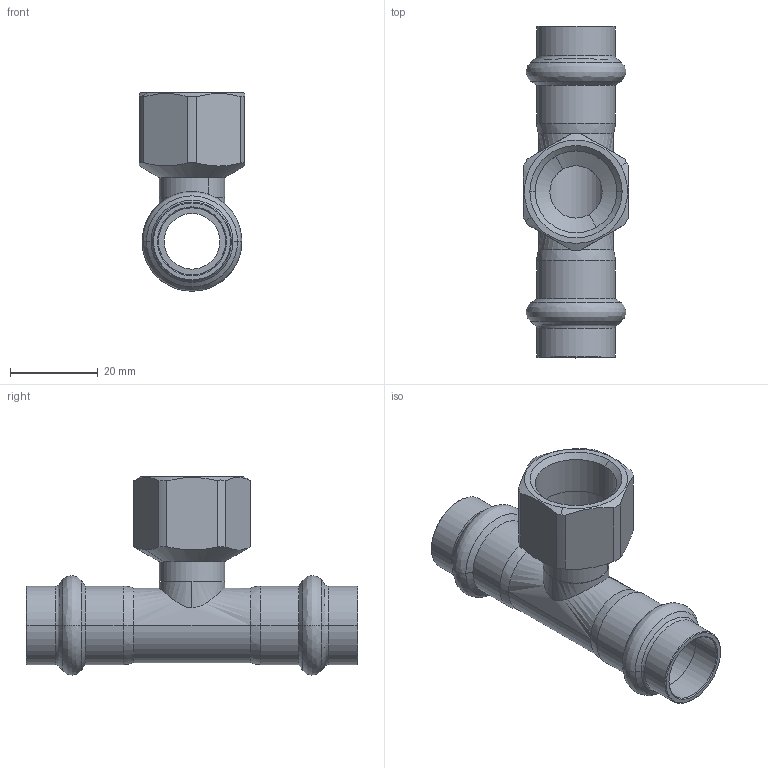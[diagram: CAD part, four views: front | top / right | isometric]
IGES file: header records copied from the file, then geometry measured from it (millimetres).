
Start section: Elysium IGES Interface
Global section: file name: C:\Users\Wallenburg\Desktop\3d modellen sudo\S-Pr VP\SP6130GV\6130GVW151215.igs; native system: CoCreate Modeling 17.00A  17-Jun-2010; preprocessor: CoCreate IGES_3D V2.2; author: Unknown; organization: Unknown; date: 20130117.154022; units: millimetre
Bounding box: 24 x 75.51 x 45.14 mm (x, y, z)
Volume: 10486.3 mm3; surface area: 11981.9 mm2
Topology: 1 solids, 1 shells, 117 faces, 260 edges, 150 vertices
Faces by surface type: bspline 117
